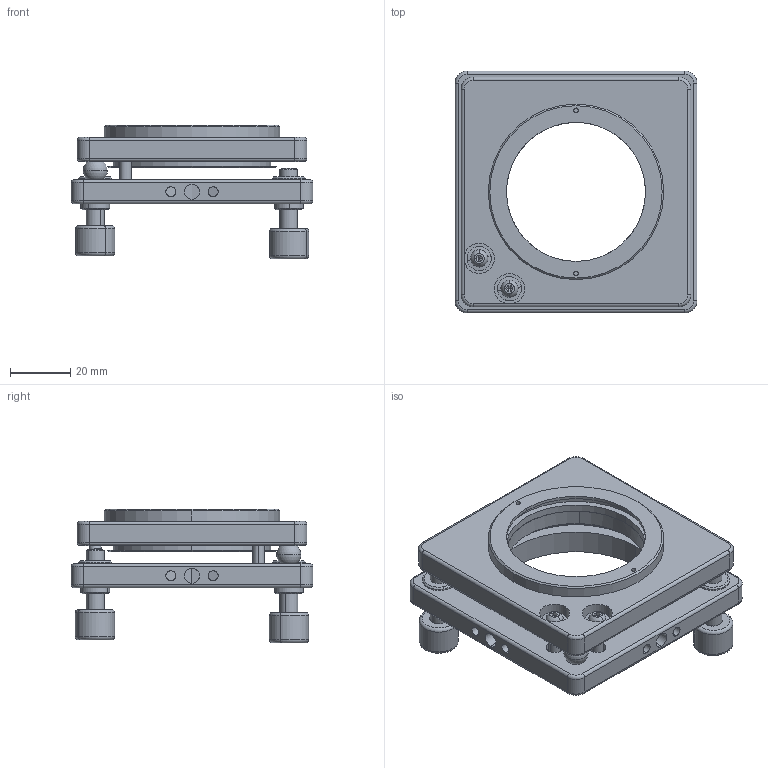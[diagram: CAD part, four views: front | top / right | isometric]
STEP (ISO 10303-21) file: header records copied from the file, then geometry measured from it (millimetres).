
FILE_DESCRIPTION (( 'STEP AP203' ), '1' );
FILE_NAME ('7MM0150謗峎覃誹噩殤.STEP', '2019-10-16T02:43:25', ( '' ), ( '' ), 'SwSTEP 2.0', 'SolidWorks 2014', '' );
FILE_SCHEMA (( 'CONFIG_CONTROL_DESIGN' ));
Length unit declared in the file: millimetre
Products named in the file (1): 7MM0150謗峎覃誹噩殤
Bounding box: 80 x 80 x 44.15 mm (x, y, z)
Surface area: 34727.7 mm2 (no closed solid volume)
Topology: 0 solids, 34 shells, 272 faces, 671 edges, 423 vertices
Faces by surface type: cylinder 104, plane 90, cone 42, torus 24, sphere 12
Entity records: 8339 total; most frequent: CARTESIAN_POINT 1695, DIRECTION 1542, ORIENTED_EDGE 1161, EDGE_CURVE 657, AXIS2_PLACEMENT_3D 628, VERTEX_POINT 417, CIRCLE 355, EDGE_LOOP 321
